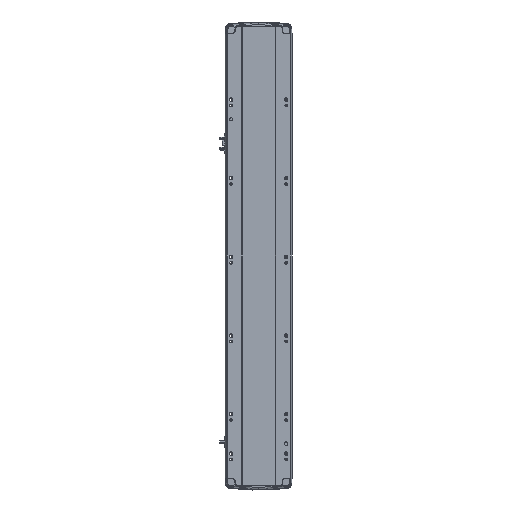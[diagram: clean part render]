
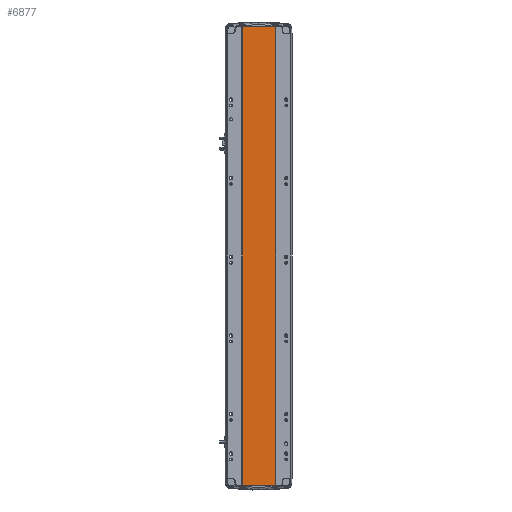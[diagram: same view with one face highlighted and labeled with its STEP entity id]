
A CAD part, front view. The second image highlights one B-rep face of the part: STEP entity #6877.
In plain terms, the highlighted planar face has unit normal (0, -1, 0).
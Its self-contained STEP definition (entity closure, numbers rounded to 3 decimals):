
#1072 = LINE ( 'NONE', #32887, #24606 ) ;
#1617 = EDGE_CURVE ( 'NONE', #26794, #30827, #1072, .T. ) ;
#2196 = CARTESIAN_POINT ( 'NONE',  ( -41.791, 1., 0. ) ) ;
#4887 = LINE ( 'NONE', #24787, #30041 ) ;
#5329 = VECTOR ( 'NONE', #30993, 1000. ) ;
#6449 = PLANE ( 'NONE',  #9013 ) ;
#6576 = EDGE_CURVE ( 'NONE', #13116, #30827, #28343, .T. ) ;
#6586 = CARTESIAN_POINT ( 'NONE',  ( 0., 0.999, 1164.5 ) ) ;
#6877 = ADVANCED_FACE ( 'NONE', ( #30343 ), #6449, .F. ) ;
#9013 = AXIS2_PLACEMENT_3D ( 'NONE', #6586, #28887, #38795 ) ;
#12308 = EDGE_CURVE ( 'NONE', #13704, #26794, #22336, .T. ) ;
#13116 = VERTEX_POINT ( 'NONE', #22679 ) ;
#13530 = EDGE_LOOP ( 'NONE', ( #24229, #41524, #40057, #16467 ) ) ;
#13704 = VERTEX_POINT ( 'NONE', #40897 ) ;
#16467 = ORIENTED_EDGE ( 'NONE', *, *, #12308, .T. ) ;
#18837 = DIRECTION ( 'NONE',  ( 1., 0., 0. ) ) ;
#19762 = VECTOR ( 'NONE', #20047, 1000. ) ;
#20047 = DIRECTION ( 'NONE',  ( 0., 0., -1. ) ) ;
#21431 = CARTESIAN_POINT ( 'NONE',  ( 41.793, 0.998, 0. ) ) ;
#22336 = LINE ( 'NONE', #30704, #5329 ) ;
#22679 = CARTESIAN_POINT ( 'NONE',  ( 41.793, 0.998, 1164.5 ) ) ;
#24229 = ORIENTED_EDGE ( 'NONE', *, *, #1617, .T. ) ;
#24606 = VECTOR ( 'NONE', #18837, 1000. ) ;
#24787 = CARTESIAN_POINT ( 'NONE',  ( 0., 0.999, 1164.5 ) ) ;
#26794 = VERTEX_POINT ( 'NONE', #2196 ) ;
#28343 = LINE ( 'NONE', #39259, #19762 ) ;
#28887 = DIRECTION ( 'NONE',  ( 0., 1., 0. ) ) ;
#30041 = VECTOR ( 'NONE', #31712, 1000. ) ;
#30343 = FACE_OUTER_BOUND ( 'NONE', #13530, .T. ) ;
#30704 = CARTESIAN_POINT ( 'NONE',  ( -41.791, 1., 1164.5 ) ) ;
#30827 = VERTEX_POINT ( 'NONE', #21431 ) ;
#30993 = DIRECTION ( 'NONE',  ( 0., 0., -1. ) ) ;
#31712 = DIRECTION ( 'NONE',  ( 1., 0., 0. ) ) ;
#32887 = CARTESIAN_POINT ( 'NONE',  ( 0., 0.999, 0. ) ) ;
#36218 = EDGE_CURVE ( 'NONE', #13704, #13116, #4887, .T. ) ;
#38795 = DIRECTION ( 'NONE',  ( -1., 0., 0. ) ) ;
#39259 = CARTESIAN_POINT ( 'NONE',  ( 41.793, 0.998, 1164.5 ) ) ;
#40057 = ORIENTED_EDGE ( 'NONE', *, *, #36218, .F. ) ;
#40897 = CARTESIAN_POINT ( 'NONE',  ( -41.791, 1., 1164.5 ) ) ;
#41524 = ORIENTED_EDGE ( 'NONE', *, *, #6576, .F. ) ;
